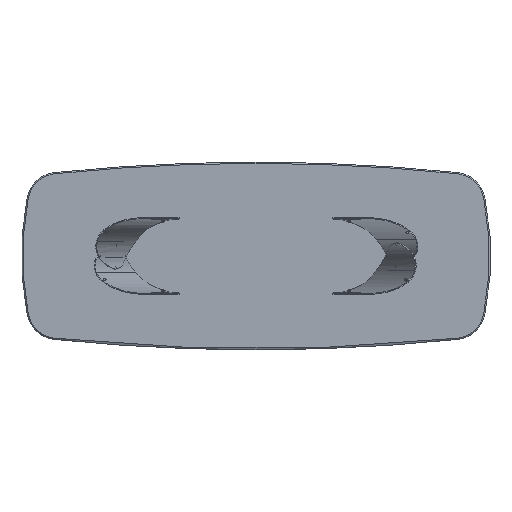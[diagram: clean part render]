
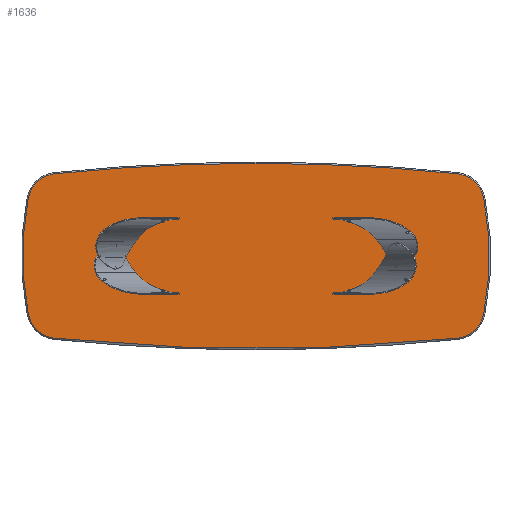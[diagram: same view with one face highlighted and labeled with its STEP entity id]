
A CAD part, front view. The second image highlights one B-rep face of the part: STEP entity #1636.
In plain terms, the highlighted planar face has unit normal (0, -1, 0).
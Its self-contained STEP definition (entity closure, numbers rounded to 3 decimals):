
#61 = DIRECTION ( 'NONE',  ( 0., 0., 1. ) ) ;
#338 = DIRECTION ( 'NONE',  ( 0., 0., 1. ) ) ;
#460 = CARTESIAN_POINT ( 'NONE',  ( -1286.52, 0., 525.576 ) ) ;
#698 = DIRECTION ( 'NONE',  ( 0., 1., 0. ) ) ;
#774 = ORIENTED_EDGE ( 'NONE', *, *, #4794, .T. ) ;
#805 = EDGE_CURVE ( 'NONE', #12082, #10900, #3548, .T. ) ;
#923 = AXIS2_PLACEMENT_3D ( 'NONE', #6865, #10133, #61 ) ;
#1130 = ORIENTED_EDGE ( 'NONE', *, *, #12897, .T. ) ;
#1290 = CIRCLE ( 'NONE', #9218, 12492. ) ;
#1432 = CARTESIAN_POINT ( 'NONE',  ( 1286.52, 0., -525.576 ) ) ;
#1636 = ADVANCED_FACE ( 'NONE', ( #11559 ), #8743, .F. ) ;
#1808 = VERTEX_POINT ( 'NONE', #5865 ) ;
#1840 = EDGE_CURVE ( 'NONE', #8863, #12082, #12058, .T. ) ;
#1870 = CARTESIAN_POINT ( 'NONE',  ( 0., 0., 11900. ) ) ;
#2536 = CARTESIAN_POINT ( 'NONE',  ( 1266.747, 0., 334.597 ) ) ;
#2588 = CARTESIAN_POINT ( 'NONE',  ( 400., 0., 0. ) ) ;
#2597 = AXIS2_PLACEMENT_3D ( 'NONE', #8015, #12808, #9788 ) ;
#2669 = DIRECTION ( 'NONE',  ( 0., 0., 1. ) ) ;
#2753 = DIRECTION ( 'NONE',  ( 0., -1., 0. ) ) ;
#2755 = CARTESIAN_POINT ( 'NONE',  ( 0., 0., 592. ) ) ;
#2914 = CARTESIAN_POINT ( 'NONE',  ( 0., 0., -11900. ) ) ;
#2915 = DIRECTION ( 'NONE',  ( 0., 0., 1. ) ) ;
#3055 = DIRECTION ( 'NONE',  ( 0., 0., 1. ) ) ;
#3120 = ORIENTED_EDGE ( 'NONE', *, *, #7189, .T. ) ;
#3354 = ORIENTED_EDGE ( 'NONE', *, *, #805, .T. ) ;
#3513 = DIRECTION ( 'NONE',  ( 0., 0., 1. ) ) ;
#3548 = CIRCLE ( 'NONE', #11267, 192. ) ;
#3810 = VERTEX_POINT ( 'NONE', #12818 ) ;
#4198 = ORIENTED_EDGE ( 'NONE', *, *, #4468, .T. ) ;
#4468 = EDGE_CURVE ( 'NONE', #10198, #8863, #7171, .T. ) ;
#4794 = EDGE_CURVE ( 'NONE', #1808, #3810, #12846, .T. ) ;
#4875 = DIRECTION ( 'NONE',  ( 0., -1., 0. ) ) ;
#4990 = EDGE_CURVE ( 'NONE', #10900, #9123, #9474, .T. ) ;
#5171 = DIRECTION ( 'NONE',  ( 0., -1., 0. ) ) ;
#5511 = CIRCLE ( 'NONE', #923, 192. ) ;
#5865 = CARTESIAN_POINT ( 'NONE',  ( -1454.991, 0., 372.386 ) ) ;
#5914 = DIRECTION ( 'NONE',  ( 0., -1., 0. ) ) ;
#6088 = DIRECTION ( 'NONE',  ( 0., 0., 1. ) ) ;
#6147 = CARTESIAN_POINT ( 'NONE',  ( 1454.991, 0., -372.386 ) ) ;
#6360 = CIRCLE ( 'NONE', #10972, 192. ) ;
#6387 = EDGE_CURVE ( 'NONE', #6433, #10198, #1290, .T. ) ;
#6433 = VERTEX_POINT ( 'NONE', #9841 ) ;
#6510 = DIRECTION ( 'NONE',  ( 0., -1., 0. ) ) ;
#6845 = ORIENTED_EDGE ( 'NONE', *, *, #4990, .T. ) ;
#6865 = CARTESIAN_POINT ( 'NONE',  ( -1266.747, 0., 334.597 ) ) ;
#7171 = CIRCLE ( 'NONE', #2597, 192. ) ;
#7189 = EDGE_CURVE ( 'NONE', #3810, #6433, #6360, .T. ) ;
#7687 = EDGE_CURVE ( 'NONE', #9123, #7919, #10135, .T. ) ;
#7822 = CARTESIAN_POINT ( 'NONE',  ( 1454.991, 0., 372.386 ) ) ;
#7919 = VERTEX_POINT ( 'NONE', #460 ) ;
#8015 = CARTESIAN_POINT ( 'NONE',  ( 1266.747, 0., -334.597 ) ) ;
#8585 = ORIENTED_EDGE ( 'NONE', *, *, #6387, .T. ) ;
#8743 = PLANE ( 'NONE',  #8918 ) ;
#8857 = AXIS2_PLACEMENT_3D ( 'NONE', #2588, #10567, #10891 ) ;
#8863 = VERTEX_POINT ( 'NONE', #6147 ) ;
#8918 = AXIS2_PLACEMENT_3D ( 'NONE', #11625, #698, #2669 ) ;
#8999 = EDGE_LOOP ( 'NONE', ( #3120, #8585, #4198, #9298, #3354, #6845, #11829, #1130, #774 ) ) ;
#9123 = VERTEX_POINT ( 'NONE', #2755 ) ;
#9218 = AXIS2_PLACEMENT_3D ( 'NONE', #1870, #5914, #2915 ) ;
#9278 = AXIS2_PLACEMENT_3D ( 'NONE', #10150, #9965, #6088 ) ;
#9298 = ORIENTED_EDGE ( 'NONE', *, *, #1840, .T. ) ;
#9474 = CIRCLE ( 'NONE', #11575, 12492. ) ;
#9788 = DIRECTION ( 'NONE',  ( 0., 0., 1. ) ) ;
#9841 = CARTESIAN_POINT ( 'NONE',  ( -1286.52, 0., -525.576 ) ) ;
#9857 = CARTESIAN_POINT ( 'NONE',  ( -400., 0., 0. ) ) ;
#9965 = DIRECTION ( 'NONE',  ( 0., -1., 0. ) ) ;
#10133 = DIRECTION ( 'NONE',  ( 0., -1., 0. ) ) ;
#10135 = CIRCLE ( 'NONE', #9278, 12492. ) ;
#10150 = CARTESIAN_POINT ( 'NONE',  ( 0., 0., -11900. ) ) ;
#10165 = AXIS2_PLACEMENT_3D ( 'NONE', #9857, #4875, #3055 ) ;
#10198 = VERTEX_POINT ( 'NONE', #1432 ) ;
#10567 = DIRECTION ( 'NONE',  ( 0., -1., 0. ) ) ;
#10732 = DIRECTION ( 'NONE',  ( 0., 0., 1. ) ) ;
#10891 = DIRECTION ( 'NONE',  ( 0., 0., 1. ) ) ;
#10900 = VERTEX_POINT ( 'NONE', #12318 ) ;
#10972 = AXIS2_PLACEMENT_3D ( 'NONE', #11850, #2753, #10732 ) ;
#11267 = AXIS2_PLACEMENT_3D ( 'NONE', #2536, #6510, #3513 ) ;
#11559 = FACE_OUTER_BOUND ( 'NONE', #8999, .T. ) ;
#11575 = AXIS2_PLACEMENT_3D ( 'NONE', #2914, #5171, #338 ) ;
#11625 = CARTESIAN_POINT ( 'NONE',  ( -200., 0., 5950. ) ) ;
#11829 = ORIENTED_EDGE ( 'NONE', *, *, #7687, .T. ) ;
#11850 = CARTESIAN_POINT ( 'NONE',  ( -1266.747, 0., -334.597 ) ) ;
#12058 = CIRCLE ( 'NONE', #10165, 1892. ) ;
#12082 = VERTEX_POINT ( 'NONE', #7822 ) ;
#12318 = CARTESIAN_POINT ( 'NONE',  ( 1286.52, 0., 525.576 ) ) ;
#12808 = DIRECTION ( 'NONE',  ( 0., -1., 0. ) ) ;
#12818 = CARTESIAN_POINT ( 'NONE',  ( -1454.991, 0., -372.386 ) ) ;
#12846 = CIRCLE ( 'NONE', #8857, 1892. ) ;
#12897 = EDGE_CURVE ( 'NONE', #7919, #1808, #5511, .T. ) ;
